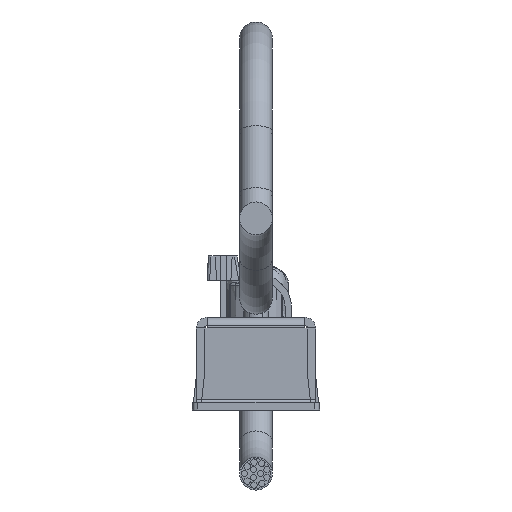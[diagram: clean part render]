
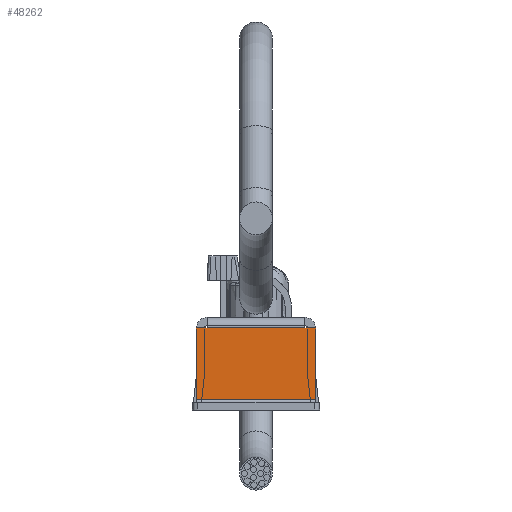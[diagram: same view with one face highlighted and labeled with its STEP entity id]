
A CAD part, front view. The second image highlights one B-rep face of the part: STEP entity #48262.
In plain terms, the highlighted planar face has unit normal (0, -1, 0) as drawn and (1, 0, 0) by its records, which use the part's own axes.
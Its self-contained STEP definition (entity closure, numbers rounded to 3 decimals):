
#8615=FACE_OUTER_BOUND('',#11714,.T.);
#11714=EDGE_LOOP('',(#41851,#41852,#41853,#41854,#41855,#41856));
#15263=LINE('',#102820,#18905);
#15315=LINE('',#102966,#18957);
#15322=LINE('',#102982,#18964);
#15323=LINE('',#102986,#18965);
#15332=LINE('',#103008,#18974);
#15337=LINE('',#103019,#18979);
#18905=VECTOR('',#66203,10.);
#18957=VECTOR('',#66347,10.);
#18964=VECTOR('',#66366,10.);
#18965=VECTOR('',#66373,10.);
#18974=VECTOR('',#66400,1.16);
#18979=VECTOR('',#66415,10.);
#22926=VERTEX_POINT('',#102817);
#22927=VERTEX_POINT('',#102819);
#22973=VERTEX_POINT('',#102962);
#22975=VERTEX_POINT('',#102965);
#22978=VERTEX_POINT('',#102980);
#22982=VERTEX_POINT('',#103006);
#29299=EDGE_CURVE('',#22926,#22927,#15263,.T.);
#29371=EDGE_CURVE('',#22975,#22973,#15315,.T.);
#29381=EDGE_CURVE('',#22926,#22978,#15322,.T.);
#29383=EDGE_CURVE('',#22978,#22975,#15323,.T.);
#29396=EDGE_CURVE('',#22982,#22973,#15332,.T.);
#29402=EDGE_CURVE('',#22982,#22927,#15337,.T.);
#41851=ORIENTED_EDGE('',*,*,#29402,.T.);
#41852=ORIENTED_EDGE('',*,*,#29299,.F.);
#41853=ORIENTED_EDGE('',*,*,#29381,.T.);
#41854=ORIENTED_EDGE('',*,*,#29383,.T.);
#41855=ORIENTED_EDGE('',*,*,#29371,.T.);
#41856=ORIENTED_EDGE('',*,*,#29396,.F.);
#45800=PLANE('',#53759);
#48262=ADVANCED_FACE('',(#8615),#45800,.F.);
#53759=AXIS2_PLACEMENT_3D('',#103030,#66432,#66433);
#66203=DIRECTION('',(0.,0.,1.));
#66347=DIRECTION('',(0.,1.,0.));
#66366=DIRECTION('',(0.,1.,0.));
#66373=DIRECTION('',(0.,1.,0.));
#66400=DIRECTION('',(0.,0.,-1.));
#66415=DIRECTION('',(0.,-1.,0.));
#66432=DIRECTION('center_axis',(-1.,0.,0.));
#66433=DIRECTION('ref_axis',(0.,0.,1.));
#102817=CARTESIAN_POINT('',(239.,-11.25,2.));
#102819=CARTESIAN_POINT('',(239.,-11.25,15.5));
#102820=CARTESIAN_POINT('',(239.,-11.25,2.));
#102962=CARTESIAN_POINT('',(239.,11.25,2.));
#102965=CARTESIAN_POINT('',(239.,9.25,2.));
#102966=CARTESIAN_POINT('',(239.,0.,2.));
#102980=CARTESIAN_POINT('',(239.,-9.25,2.));
#102982=CARTESIAN_POINT('',(239.,0.,2.));
#102986=CARTESIAN_POINT('',(239.,0.,2.));
#103006=CARTESIAN_POINT('',(239.,11.25,15.5));
#103008=CARTESIAN_POINT('',(239.,11.25,-1.644));
#103019=CARTESIAN_POINT('',(239.,-5.625,15.5));
#103030=CARTESIAN_POINT('Origin',(239.,0.,8.839));
